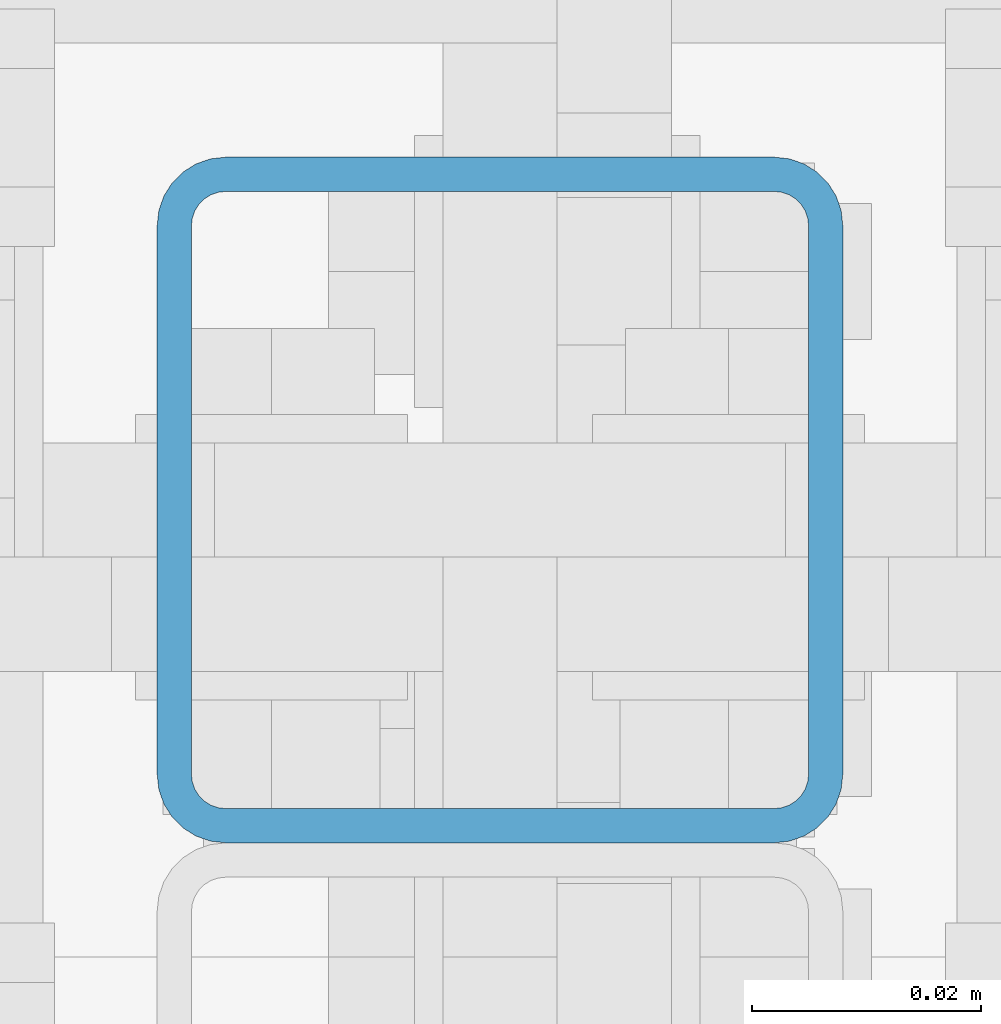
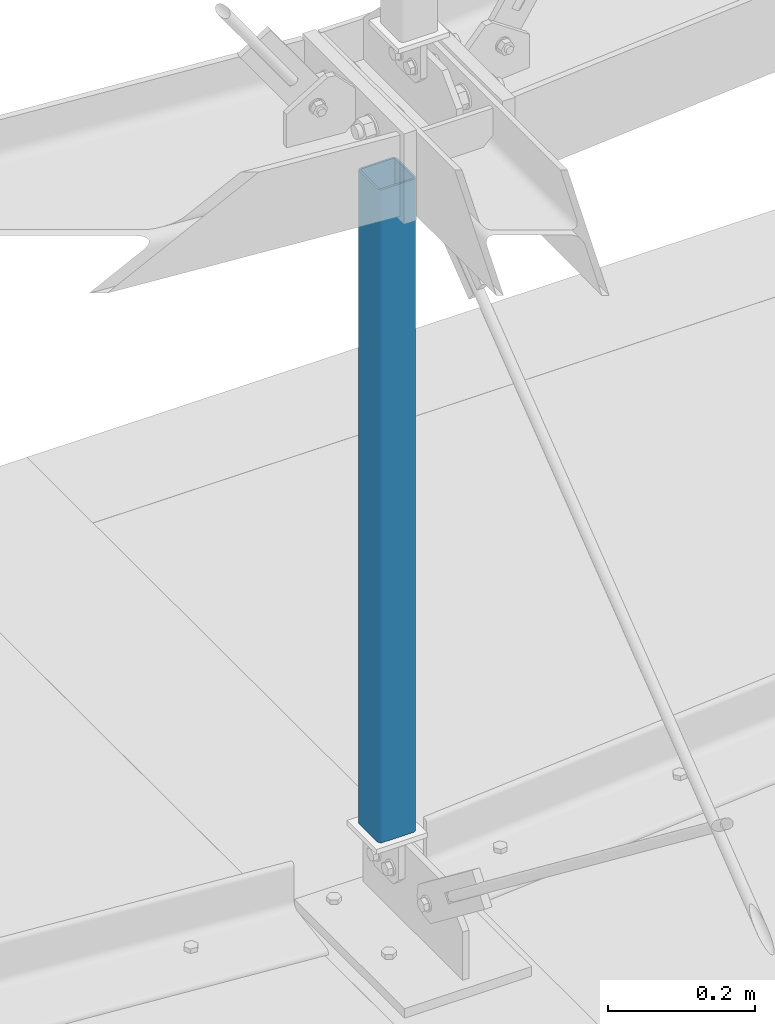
# One storey, part 21 of 271: 1 beam, 1 element without a shape of its own.
"""IFC2X3 building model written with IfcOpenShell, lengths in millimetres."""

from ifc_helpers import new_model, si_unit, frame, origin_with_axes, origin_2d_with_axis, place, context, subcontext, project, spatial, hollow_rectangle, extrude, clip, halfspace, material, type_object, element, aggregate, save


model = new_model("IFC2X3")

# Units and contexts
model_context = context("Model", 3, precision=1e-05, world=origin_with_axes())
body_context = subcontext(model_context, "Body", "Model", "MODEL_VIEW")
ifc_project = project(units=[si_unit("LENGTHUNIT", "METRE", prefix="MILLI"), si_unit("AREAUNIT", "SQUARE_METRE"), si_unit("VOLUMEUNIT", "CUBIC_METRE"), si_unit("MASSUNIT", "GRAM", prefix="KILO"), si_unit("TIMEUNIT", "SECOND"), si_unit("PLANEANGLEUNIT", "RADIAN"), si_unit("SOLIDANGLEUNIT", "STERADIAN"), si_unit("THERMODYNAMICTEMPERATUREUNIT", "DEGREE_CELSIUS"), si_unit("LUMINOUSINTENSITYUNIT", "LUMEN")], contexts=[model_context])

# Site, building, storey
site_placement = place(None, origin_with_axes())
site = spatial("IfcSite", under=ifc_project, at=site_placement, Name="Undefined", CompositionType="ELEMENT")
building_placement = place(site_placement, origin_with_axes())
building = spatial("IfcBuilding", under=site, at=building_placement, Name="Undefined", CompositionType="ELEMENT")
storey_placement = place(building_placement, origin_with_axes())
storey = spatial("IfcBuildingStorey", under=building, at=storey_placement, Name="Undefined", CompositionType="ELEMENT", Elevation=0.0)

# Assembly, beam
assembly_placement = place(storey_placement, origin_with_axes())
assembly = element("IfcElementAssembly", 1, at=assembly_placement, inside=storey, AssemblyPlace="NOTDEFINED", PredefinedType="RIGID_FRAME")
ifc_material = material(Name="STEEL/S355JR")
beam_type = type_object("IfcBeamType", Name="SHS60*3", PredefinedType="NOTDEFINED")
beam_placement = place(assembly_placement, frame((6348.37568736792, 3764.92439872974, 4.34999990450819), z_axis=(0.0, 1.0, 0.0), x_axis=(0.0, 0.0, 1.0)))
beam = element("IfcBeam", 2, at=beam_placement, type_object=beam_type, material=ifc_material, Name="TĘŻNIK", ObjectType="SHS60*3", context=body_context, shape_type="Clipping", body=[
    clip(clip(extrude(hollow_rectangle(XDim=60.0, YDim=60.0, WallThickness=3.0, InnerFilletRadius=3.0, OuterFilletRadius=6.0, at=origin_2d_with_axis()), frame((1356.7000000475, 0.0, 0.0), z_axis=(-1.0, 0.0, 1.38777878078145e-17), x_axis=(0.0, -1.0, 0.0)), (0.0, 0.0, 1.0), 1356.7), halfspace(frame((1219.25, 15.0, 0.0), z_axis=(-1.0, 0.0, 1.38777878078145e-17), x_axis=(0.0, 0.0, 1.0)), True)), halfspace(frame((133.5, 0.0, -15.0), z_axis=(1.0, 0.0, 0.0), x_axis=(0.0, -1.0, 0.0)), True)),
])
aggregate(assembly, [beam])

save(model, "model.ifc")
